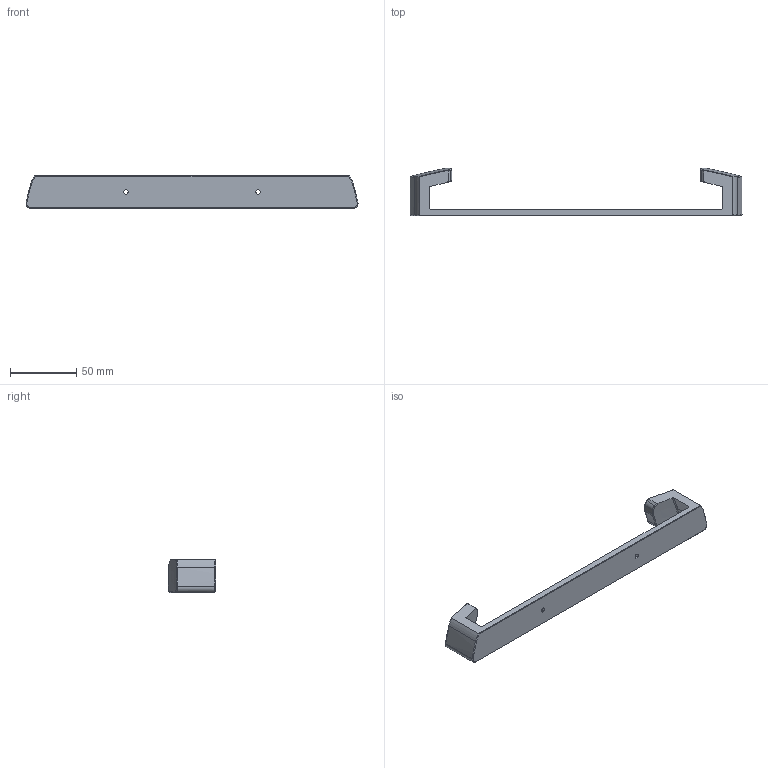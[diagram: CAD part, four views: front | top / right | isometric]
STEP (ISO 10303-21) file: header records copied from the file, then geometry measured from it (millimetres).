
FILE_DESCRIPTION (( 'STEP AP214' ), '1' );
FILE_NAME ('Topfdeckelhalterung 24cm.STEP', '2025-06-14T16:17:18', ( '' ), ( '' ), 'SwSTEP 2.0', 'SolidWorks 2012', '' );
FILE_SCHEMA (( 'AUTOMOTIVE_DESIGN' ));
Length unit declared in the file: millimetre
Products named in the file (1): Topfdeckelhalterung 24cm
Bounding box: 251.31 x 35.84 x 25 mm (x, y, z)
Volume: 47568.2 mm3; surface area: 20220.8 mm2
Topology: 1 solids, 1 shells, 113 faces, 281 edges, 168 vertices
Faces by surface type: bspline 50, cylinder 23, plane 20, cone 10, torus 10
Entity records: 5022 total; most frequent: CARTESIAN_POINT 2730, ORIENTED_EDGE 558, DIRECTION 349, EDGE_CURVE 279, VERTEX_POINT 168, AXIS2_PLACEMENT_3D 142, B_SPLINE_CURVE_WITH_KNOTS 130, EDGE_LOOP 117
